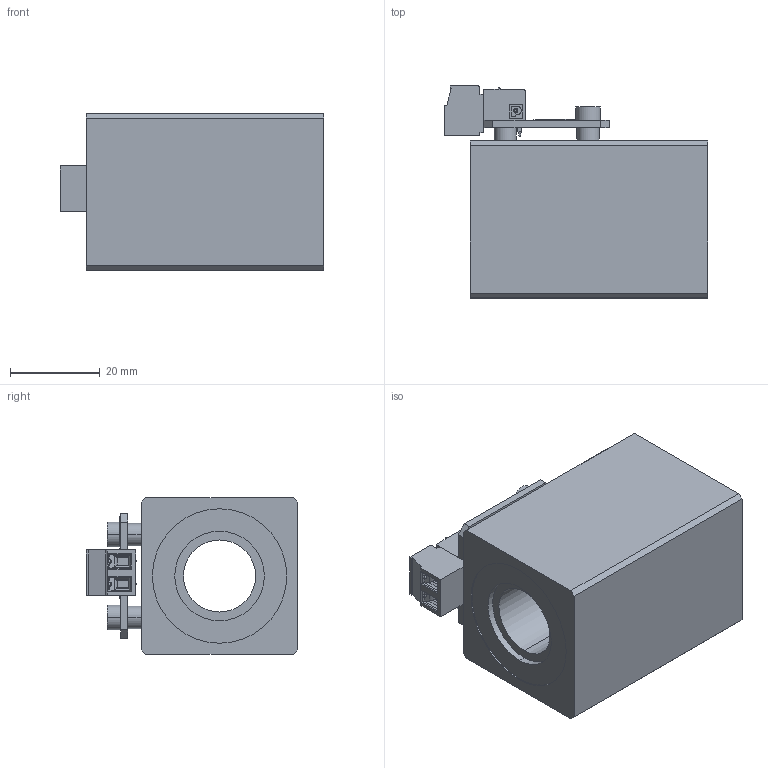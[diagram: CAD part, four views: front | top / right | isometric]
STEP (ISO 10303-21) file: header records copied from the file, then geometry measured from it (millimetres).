
FILE_DESCRIPTION (( 'STEP AP214' ), '1' );
FILE_NAME ('MXS35_16x50-M209a.STEP', '2015-07-07T05:21:13', ( '' ), ( '' ), 'SwSTEP 2.0', 'SolidWorks 2014', '' );
FILE_SCHEMA (( 'AUTOMOTIVE_DESIGN' ));
Length unit declared in the file: millimetre
Products named in the file (2): MXS35_16x50-M209a
Bounding box: 58.9 x 47.3 x 35 mm (x, y, z)
Volume: 55971.1 mm3; surface area: 16823.8 mm2
Topology: 18 solids, 18 shells, 597 faces, 1505 edges, 978 vertices
Faces by surface type: plane 363, cylinder 201, cone 20, bspline 11, torus 2
Entity records: 25125 total; most frequent: CARTESIAN_POINT 3841, ORIENTED_EDGE 2990, DIRECTION 2978, EDGE_CURVE 1495, VECTOR 1014, LINE 1014, AXIS2_PLACEMENT_3D 982, VERTEX_POINT 978
